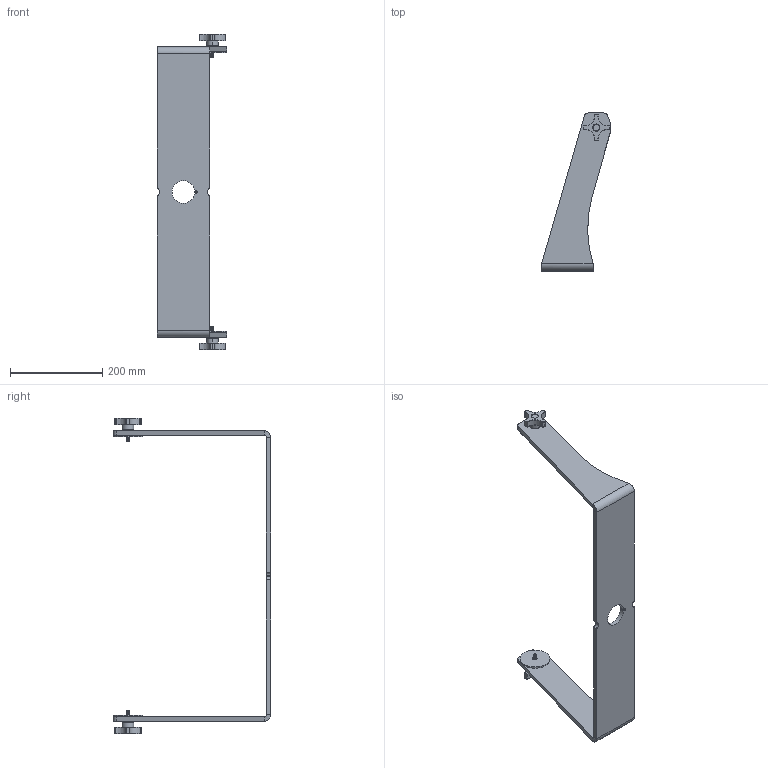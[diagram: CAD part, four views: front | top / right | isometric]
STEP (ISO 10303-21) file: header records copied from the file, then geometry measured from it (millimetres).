
FILE_DESCRIPTION (( 'STEP AP214' ), '1' );
FILE_NAME ('Yoke for 23.8 inch Universal Mount Monitor, YK23.8.STEP', '2022-07-07T18:02:37', ( '' ), ( '' ), 'SwSTEP 2.0', 'SolidWorks 2020', '' );
FILE_SCHEMA (( 'AUTOMOTIVE_DESIGN' ));
Length unit declared in the file: inch
Products named in the file (5): Yoke for 23.8 inch Universal Mount Monitor, YK23.8; Rubber Washer, 10177; Bushing, 30500; Knob, 30053; All Yoke Configurations, YKxx_YK23
Assembly tree (7 placements, depth 2):
  Yoke for 23.8 inch Universal Mount Monitor, YK23.8
    All Yoke Configurations, YKxx_YK23
    Bushing, 30500  x2
    Rubber Washer, 10177  x2
    Knob, 30053  x2
Bounding box: 151.52 x 341.02 x 682.68 mm (x, y, z)
Volume: 1185421.5 mm3; surface area: 291499.3 mm2
Topology: 7 solids, 7 shells, 567 faces, 1225 edges, 664 vertices
Faces by surface type: cylinder 257, cone 176, torus 48, plane 42, sphere 40, bspline 4
Entity records: 11008 total; most frequent: CARTESIAN_POINT 4122, DIRECTION 1480, ORIENTED_EDGE 1334, EDGE_CURVE 667, AXIS2_PLACEMENT_3D 601, VERTEX_POINT 369, EDGE_LOOP 324, ADVANCED_FACE 310
